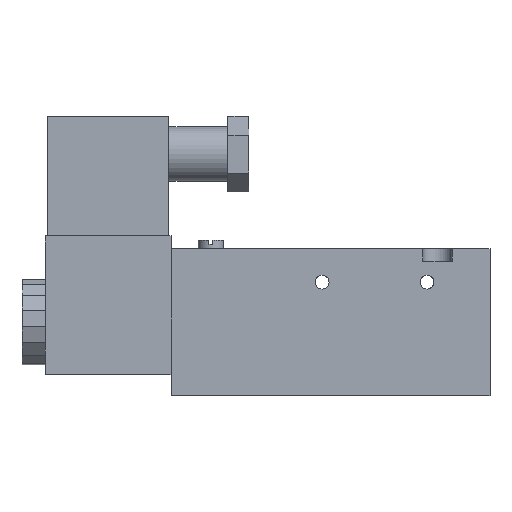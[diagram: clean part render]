
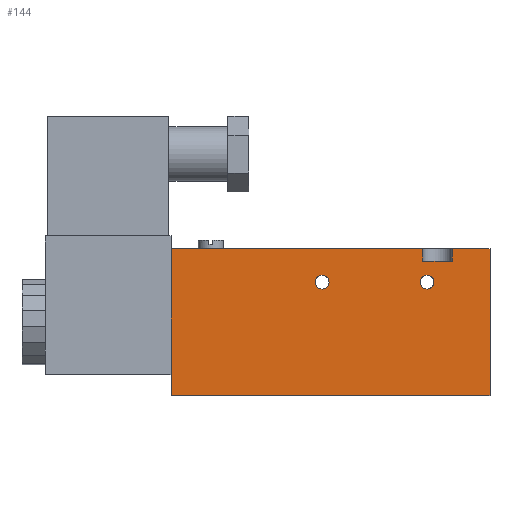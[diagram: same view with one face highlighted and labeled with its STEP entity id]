
A CAD part, top view. The second image highlights one B-rep face of the part: STEP entity #144.
In plain terms, the highlighted planar face has unit normal (0, 0, 1).
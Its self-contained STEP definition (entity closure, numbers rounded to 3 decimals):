
#144=ADVANCED_FACE('',(#416,#418,#420),#422,.T.);
#416=FACE_BOUND('',#417,.T.);
#417=EDGE_LOOP('',(#922,#923,#924,#925,#926,#927,#928,#929));
#418=FACE_BOUND('',#419,.T.);
#419=EDGE_LOOP('',(#930));
#420=FACE_BOUND('',#421,.T.);
#421=EDGE_LOOP('',(#931));
#422=PLANE('',#423);
#423=AXIS2_PLACEMENT_3D('',#424,#425,#426);
#424=CARTESIAN_POINT('',(-76.,17.5,11.));
#425=DIRECTION('',(0.,0.,1.));
#426=DIRECTION('',(0.,-1.,0.));
#922=ORIENTED_EDGE('',*,*,#1256,.T.);
#923=ORIENTED_EDGE('',*,*,#1257,.F.);
#924=ORIENTED_EDGE('',*,*,#1258,.T.);
#925=ORIENTED_EDGE('',*,*,#1241,.T.);
#926=ORIENTED_EDGE('',*,*,#1259,.F.);
#927=ORIENTED_EDGE('',*,*,#1260,.F.);
#928=ORIENTED_EDGE('',*,*,#1261,.T.);
#929=ORIENTED_EDGE('',*,*,#1251,.T.);
#930=ORIENTED_EDGE('',*,*,#1234,.T.);
#931=ORIENTED_EDGE('',*,*,#1262,.T.);
#1234=EDGE_CURVE('',#1404,#1404,#1405,.F.);
#1241=EDGE_CURVE('',#1412,#1417,#1419,.T.);
#1251=EDGE_CURVE('',#1438,#1439,#1440,.T.);
#1256=EDGE_CURVE('',#1439,#1448,#1449,.F.);
#1257=EDGE_CURVE('',#1450,#1448,#1451,.T.);
#1258=EDGE_CURVE('',#1450,#1412,#1452,.T.);
#1259=EDGE_CURVE('',#1453,#1417,#1454,.T.);
#1260=EDGE_CURVE('',#1455,#1453,#1456,.T.);
#1261=EDGE_CURVE('',#1455,#1438,#1457,.F.);
#1262=EDGE_CURVE('',#1458,#1458,#1459,.F.);
#1404=VERTEX_POINT('',#1692);
#1405=CIRCLE('',#1693,1.65);
#1412=VERTEX_POINT('',#1865);
#1417=VERTEX_POINT('',#1874);
#1419=LINE('',#1878,#1879);
#1438=VERTEX_POINT('',#1923);
#1439=VERTEX_POINT('',#1924);
#1440=LINE('',#1925,#1926);
#1448=VERTEX_POINT('',#1945);
#1449=LINE('',#1946,#1947);
#1450=VERTEX_POINT('',#1949);
#1451=LINE('',#1950,#1951);
#1452=LINE('',#1953,#1954);
#1453=VERTEX_POINT('',#1956);
#1454=LINE('',#1957,#1958);
#1455=VERTEX_POINT('',#1960);
#1456=LINE('',#1961,#1962);
#1457=LINE('',#1964,#1965);
#1458=VERTEX_POINT('',#1967);
#1459=CIRCLE('',#1968,1.65);
#1692=CARTESIAN_POINT('',(-13.35,9.5,11.));
#1693=AXIS2_PLACEMENT_3D('',#1694,#1695,#1696);
#1694=CARTESIAN_POINT('',(-15.,9.5,11.));
#1695=DIRECTION('',(0.,0.,1.));
#1696=DIRECTION('',(1.,0.,0.));
#1865=CARTESIAN_POINT('',(-76.,-17.5,11.));
#1874=CARTESIAN_POINT('',(0.,-17.5,11.));
#1878=CARTESIAN_POINT('',(-76.,-17.5,11.));
#1879=VECTOR('',#1880,1.);
#1880=DIRECTION('',(1.,0.,0.));
#1923=CARTESIAN_POINT('',(-9.,14.5,11.));
#1924=CARTESIAN_POINT('',(-16.,14.5,11.));
#1925=CARTESIAN_POINT('',(-9.,14.5,11.));
#1926=VECTOR('',#1927,1.);
#1927=DIRECTION('',(-1.,0.,0.));
#1945=CARTESIAN_POINT('',(-16.,17.5,11.));
#1946=CARTESIAN_POINT('',(-16.,17.5,11.));
#1947=VECTOR('',#1948,1.);
#1948=DIRECTION('',(0.,-1.,0.));
#1949=CARTESIAN_POINT('',(-76.,17.5,11.));
#1950=CARTESIAN_POINT('',(-76.,17.5,11.));
#1951=VECTOR('',#1952,1.);
#1952=DIRECTION('',(1.,0.,0.));
#1953=CARTESIAN_POINT('',(-76.,17.5,11.));
#1954=VECTOR('',#1955,1.);
#1955=DIRECTION('',(0.,-1.,0.));
#1956=CARTESIAN_POINT('',(0.,17.5,11.));
#1957=CARTESIAN_POINT('',(0.,17.5,11.));
#1958=VECTOR('',#1959,1.);
#1959=DIRECTION('',(0.,-1.,0.));
#1960=CARTESIAN_POINT('',(-9.,17.5,11.));
#1961=CARTESIAN_POINT('',(-9.,17.5,11.));
#1962=VECTOR('',#1963,1.);
#1963=DIRECTION('',(1.,0.,0.));
#1964=CARTESIAN_POINT('',(-9.,14.5,11.));
#1965=VECTOR('',#1966,1.);
#1966=DIRECTION('',(0.,1.,0.));
#1967=CARTESIAN_POINT('',(-38.35,9.5,11.));
#1968=AXIS2_PLACEMENT_3D('',#1969,#1970,#1971);
#1969=CARTESIAN_POINT('',(-40.,9.5,11.));
#1970=DIRECTION('',(0.,0.,1.));
#1971=DIRECTION('',(1.,0.,0.));
